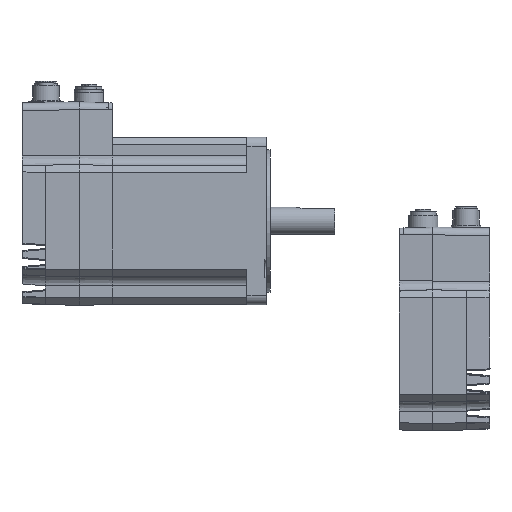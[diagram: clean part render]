
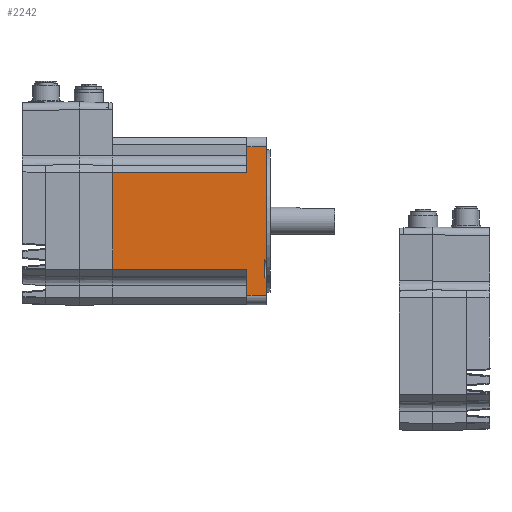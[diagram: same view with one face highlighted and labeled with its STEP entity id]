
A CAD part, left-side view. The second image highlights one B-rep face of the part: STEP entity #2242.
In plain terms, the highlighted planar face has unit normal (-1, 0, 0).
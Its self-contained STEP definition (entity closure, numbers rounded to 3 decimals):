
#2242 = ADVANCED_FACE( '', ( #5051 ), #5052, .F. );
#5051 = FACE_OUTER_BOUND( '', #8689, .T. );
#5052 = PLANE( '', #8690 );
#8689 = EDGE_LOOP( '', ( #15244, #15245, #15246, #15247, #15248, #15249, #15250, #15251, #15252, #15253, #15254, #15255 ) );
#8690 = AXIS2_PLACEMENT_3D( '', #15256, #15257, #15258 );
#15244 = ORIENTED_EDGE( '', *, *, #21474, .T. );
#15245 = ORIENTED_EDGE( '', *, *, #21988, .F. );
#15246 = ORIENTED_EDGE( '', *, *, #19804, .F. );
#15247 = ORIENTED_EDGE( '', *, *, #21989, .T. );
#15248 = ORIENTED_EDGE( '', *, *, #21345, .T. );
#15249 = ORIENTED_EDGE( '', *, *, #21990, .T. );
#15250 = ORIENTED_EDGE( '', *, *, #20963, .F. );
#15251 = ORIENTED_EDGE( '', *, *, #20221, .T. );
#15252 = ORIENTED_EDGE( '', *, *, #21358, .T. );
#15253 = ORIENTED_EDGE( '', *, *, #21646, .F. );
#15254 = ORIENTED_EDGE( '', *, *, #21991, .F. );
#15255 = ORIENTED_EDGE( '', *, *, #21992, .T. );
#15256 = CARTESIAN_POINT( '', ( 4.066, 176.743, 64.064 ) );
#15257 = DIRECTION( '', ( 1., 0., 0. ) );
#15258 = DIRECTION( '', ( 0., 0., -1. ) );
#19804 = EDGE_CURVE( '', #23453, #23455, #23456, .T. );
#20221 = EDGE_CURVE( '', #24177, #24178, #24179, .T. );
#20963 = EDGE_CURVE( '', #24177, #25366, #25367, .T. );
#21345 = EDGE_CURVE( '', #25921, #25922, #25923, .T. );
#21358 = EDGE_CURVE( '', #24178, #25940, #25942, .T. );
#21474 = EDGE_CURVE( '', #26111, #26109, #26112, .T. );
#21646 = EDGE_CURVE( '', #26344, #25940, #26345, .T. );
#21988 = EDGE_CURVE( '', #23455, #26109, #26812, .T. );
#21989 = EDGE_CURVE( '', #23453, #25921, #26813, .T. );
#21990 = EDGE_CURVE( '', #25922, #25366, #26814, .T. );
#21991 = EDGE_CURVE( '', #26815, #26344, #26816, .T. );
#21992 = EDGE_CURVE( '', #26815, #26111, #26817, .T. );
#23453 = VERTEX_POINT( '', #28687 );
#23455 = VERTEX_POINT( '', #28689 );
#23456 = LINE( '', #28690, #28691 );
#24177 = VERTEX_POINT( '', #29699 );
#24178 = VERTEX_POINT( '', #29700 );
#24179 = LINE( '', #29701, #29702 );
#25366 = VERTEX_POINT( '', #31272 );
#25367 = LINE( '', #31273, #31274 );
#25921 = VERTEX_POINT( '', #32032 );
#25922 = VERTEX_POINT( '', #32033 );
#25923 = LINE( '', #32034, #32035 );
#25940 = VERTEX_POINT( '', #32058 );
#25942 = LINE( '', #32060, #32061 );
#26109 = VERTEX_POINT( '', #32300 );
#26111 = VERTEX_POINT( '', #32303 );
#26112 = LINE( '', #32304, #32305 );
#26344 = VERTEX_POINT( '', #32647 );
#26345 = LINE( '', #32648, #32649 );
#26812 = LINE( '', #33277, #33278 );
#26813 = LINE( '', #33279, #33280 );
#26814 = LINE( '', #33281, #33282 );
#26815 = VERTEX_POINT( '', #33283 );
#26816 = LINE( '', #33284, #33285 );
#26817 = LINE( '', #33286, #33287 );
#28687 = CARTESIAN_POINT( '', ( 4.066, 9.9, 26.064 ) );
#28689 = CARTESIAN_POINT( '', ( 4.066, 9.9, 39.364 ) );
#28690 = CARTESIAN_POINT( '', ( 4.066, 9.9, 26.064 ) );
#28691 = VECTOR( '', #35276, 1000. );
#29699 = CARTESIAN_POINT( '', ( 4.066, 1., 44.064 ) );
#29700 = CARTESIAN_POINT( '', ( 4.066, 0., 44.064 ) );
#29701 = CARTESIAN_POINT( '', ( 4.066, 4., 44.064 ) );
#29702 = VECTOR( '', #35849, 1000. );
#31272 = CARTESIAN_POINT( '', ( 4.066, 1., 35.064 ) );
#31273 = CARTESIAN_POINT( '', ( 4.066, 1., 39.564 ) );
#31274 = VECTOR( '', #36866, 1000. );
#32032 = CARTESIAN_POINT( '', ( 4.066, 0., 26.064 ) );
#32033 = CARTESIAN_POINT( '', ( 4.066, 0., 35.064 ) );
#32034 = CARTESIAN_POINT( '', ( 4.066, 0., 64.064 ) );
#32035 = VECTOR( '', #37378, 1000. );
#32058 = CARTESIAN_POINT( '', ( 4.066, 0., 102.064 ) );
#32060 = CARTESIAN_POINT( '', ( 4.066, 0., 64.064 ) );
#32061 = VECTOR( '', #37403, 1000. );
#32300 = CARTESIAN_POINT( '', ( 4.066, 78.5, 39.364 ) );
#32303 = CARTESIAN_POINT( '', ( 4.066, 78.5, 88.764 ) );
#32304 = CARTESIAN_POINT( '', ( 4.066, 78.5, 88.764 ) );
#32305 = VECTOR( '', #37553, 1000. );
#32647 = CARTESIAN_POINT( '', ( 4.066, 9.9, 102.064 ) );
#32648 = CARTESIAN_POINT( '', ( 4.066, 176.743, 102.064 ) );
#32649 = VECTOR( '', #37769, 1000. );
#33277 = CARTESIAN_POINT( '', ( 4.066, -127.06, 39.364 ) );
#33278 = VECTOR( '', #38195, 1000. );
#33279 = CARTESIAN_POINT( '', ( 4.066, 176.743, 26.064 ) );
#33280 = VECTOR( '', #38196, 1000. );
#33281 = CARTESIAN_POINT( '', ( 4.066, 4., 35.064 ) );
#33282 = VECTOR( '', #38197, 1000. );
#33283 = CARTESIAN_POINT( '', ( 4.066, 9.9, 88.764 ) );
#33284 = CARTESIAN_POINT( '', ( 4.066, 9.9, 88.564 ) );
#33285 = VECTOR( '', #38198, 1000. );
#33286 = CARTESIAN_POINT( '', ( 4.066, -127.06, 88.764 ) );
#33287 = VECTOR( '', #38199, 1000. );
#35276 = DIRECTION( '', ( 0., 0., 1. ) );
#35849 = DIRECTION( '', ( 0., -1., 0. ) );
#36866 = DIRECTION( '', ( 0., 0., -1. ) );
#37378 = DIRECTION( '', ( 0., 0., 1. ) );
#37403 = DIRECTION( '', ( 0., 0., 1. ) );
#37553 = DIRECTION( '', ( 0., 0., -1. ) );
#37769 = DIRECTION( '', ( 0., -1., 0. ) );
#38195 = DIRECTION( '', ( 0., 1., 0. ) );
#38196 = DIRECTION( '', ( 0., -1., 0. ) );
#38197 = DIRECTION( '', ( 0., 1., 0. ) );
#38198 = DIRECTION( '', ( 0., 0., 1. ) );
#38199 = DIRECTION( '', ( 0., 1., 0. ) );
